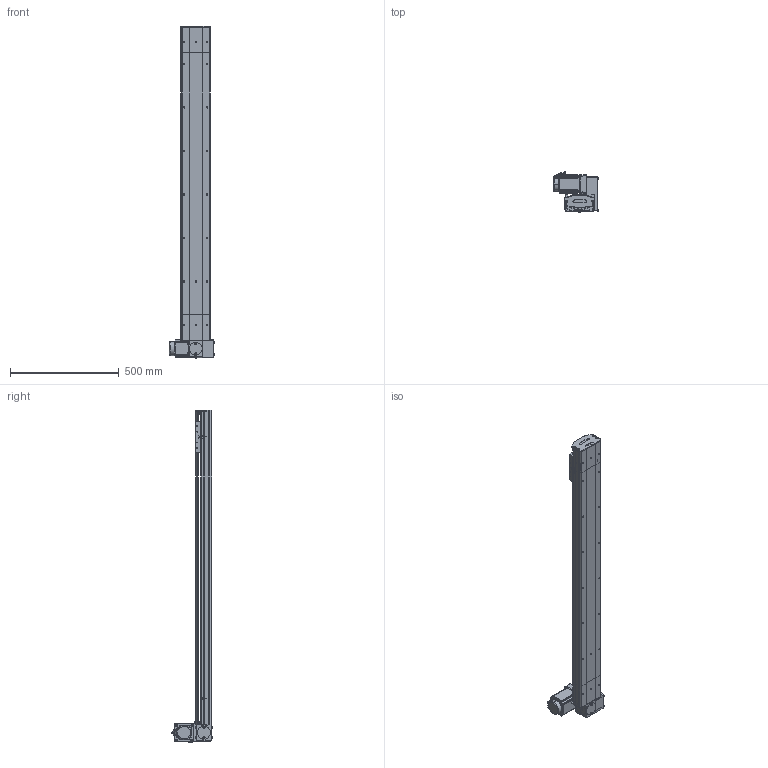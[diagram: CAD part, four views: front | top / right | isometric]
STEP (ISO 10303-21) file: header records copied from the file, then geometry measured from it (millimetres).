
FILE_DESCRIPTION (( 'STEP AP214' ), '1' );
FILE_NAME ('D14 TBH LT S1200.STEP', '2010-06-29T13:46:31', ( 'Conseil Régional Haute-Normandie' ), ( 'Conseil Régional Haute-Normandie' ), 'SwSTEP 2.0', 'SolidWorks 2010', '' );
FILE_SCHEMA (( 'AUTOMOTIVE_DESIGN' ));
Length unit declared in the file: millimetre
Products named in the file (39): vis M5 L16_Default; Moteur motionking 90BLDC100A-640; chariot D14B_Default; D14 TBH LT S1200; poulie head_Default; Arbre+rail head D14; avant 90BLDC100A-640; couvercle D14 head_Default; poulie tail_Default; vis M5 L8 90°_Default; D14 TB H LT_Default; Couroie_Default; couvercle D14_Default; plaque de  bout head D14 LT_Default; corp head D14_Default; Arbre+rail tail D14; couroie 2_Default; Conecteur_Default; Conecteur2_Default; renvoi LH_Default; Vis M5 L16-2_Default; Cache arbre_Default; Cache_Default; vis M5 L5_Default; Plaque racord D14_Default; corps 90BLDC100A-640; codeur 90BLDC100-640; Chariot D14; Cvis M5 L70_Default; guide D14; vis M5 L12_Default; tete d''axe haut D14; corpl 1200_Default; plaque de  bout tail D14_Default; Rail + couroie D14 Course 1200 ; Tail D14B_Default; couvercle D14 course L1200_Default; corpl tail D14_Default; D14 couroie L1200_Default
Assembly tree (68 placements, depth 4):
  D14 TBH LT S1200
    D14 couroie L1200_Default
      Rail + couroie D14 Course 1200 
      couvercle D14 course L1200_Default
      corpl 1200_Default
    D14 TB H LT_Default
      vis M5 L12_Default  x12
      vis M5 L5_Default  x2
      Cache_Default  x2
      Cvis M5 L70_Default  x4
      Vis M5 L16-2_Default  x4
      couvercle D14 head_Default
      plaque de  bout head D14 LT_Default
      Cache arbre_Default
      Arbre+rail head D14
      poulie head_Default
      Plaque racord D14_Default
      corp head D14_Default
      couroie 2_Default
      renvoi LH_Default
      Moteur motionking 90BLDC100A-640
        avant 90BLDC100A-640
        Conecteur_Default
        codeur 90BLDC100-640
        Conecteur2_Default
        corps 90BLDC100A-640
    Tail D14B_Default
      vis M5 L8 90°_Default  x2
      plaque de  bout tail D14_Default
      vis M5 L12_Default  x4
      Couroie_Default
      vis M5 L16_Default  x2
      couvercle D14_Default
      corpl tail D14_Default
      Arbre+rail tail D14
      tete d''axe haut D14
      poulie tail_Default
    chariot D14B_Default
      vis M5 L12_Default  x4
      guide D14  x2
      Chariot D14
Bounding box: 207.2 x 189.1 x 1525.75 mm (x, y, z)
Volume: 6696794.4 mm3; surface area: 2206761.9 mm2
Topology: 92 solids, 92 shells, 2629 faces, 6431 edges, 4146 vertices
Faces by surface type: plane 1589, cylinder 727, bspline 136, torus 89, cone 84, sphere 4
Entity records: 79172 total; most frequent: CARTESIAN_POINT 23545, ORIENTED_EDGE 9722, DIRECTION 9496, EDGE_CURVE 4861, VECTOR 3274, LINE 3274, VERTEX_POINT 3196, AXIS2_PLACEMENT_3D 3111
